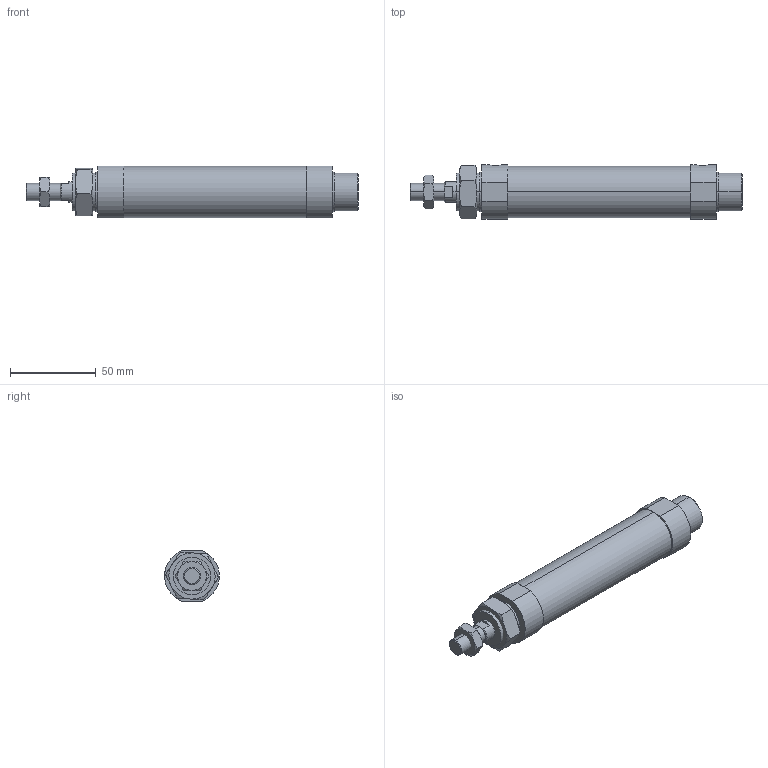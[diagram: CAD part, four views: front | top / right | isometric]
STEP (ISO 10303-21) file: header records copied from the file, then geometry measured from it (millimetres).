
FILE_DESCRIPTION (( 'STEP AP203' ), '1' );
FILE_NAME ('J#2-25-75-N.STEP', '2016-03-08T07:13:52', ( '' ), ( '' ), 'SwSTEP 2.0', 'SolidWorks 2014', '' );
FILE_SCHEMA (( 'CONFIG_CONTROL_DESIGN' ));
Length unit declared in the file: millimetre
Products named in the file (4): J#2-25-75-N; J#2-25-75
Assembly tree (3 placements, depth 2):
  J#2-25-75-N
    J#2-25-75
    (unnamed)
    (unnamed)
Bounding box: 194 x 32 x 30 mm (x, y, z)
Volume: 114640.9 mm3; surface area: 22011 mm2
Topology: 3 solids, 3 shells, 97 faces, 214 edges, 126 vertices
Faces by surface type: plane 37, cylinder 26, torus 24, cone 10
Entity records: 3360 total; most frequent: CARTESIAN_POINT 879, DIRECTION 442, ORIENTED_EDGE 420, EDGE_CURVE 210, AXIS2_PLACEMENT_3D 185, VERTEX_POINT 126, EDGE_LOOP 108, FACE_OUTER_BOUND 97
